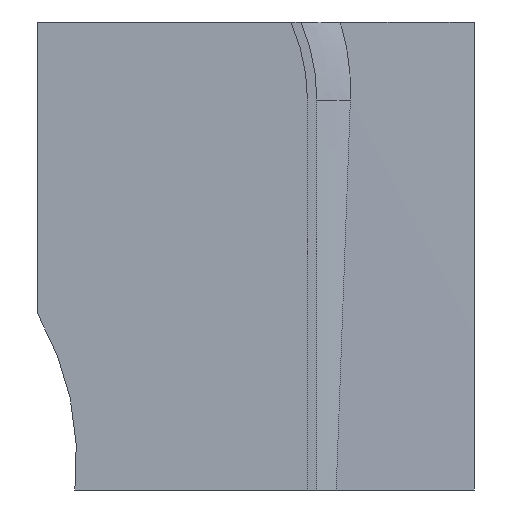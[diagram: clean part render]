
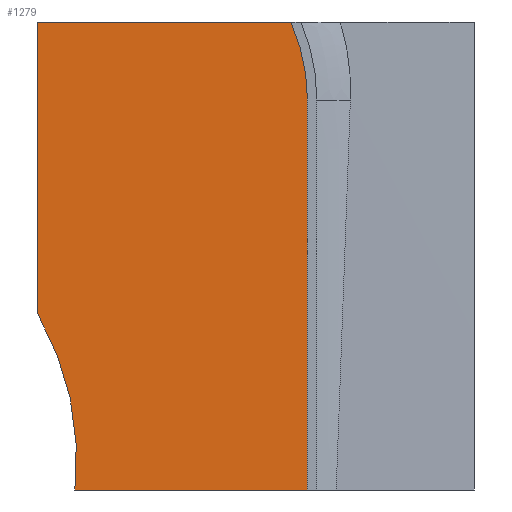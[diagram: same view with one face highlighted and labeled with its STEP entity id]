
A CAD part, front view. The second image highlights one B-rep face of the part: STEP entity #1279.
In plain terms, the highlighted planar face has unit normal (0, -1, 0).
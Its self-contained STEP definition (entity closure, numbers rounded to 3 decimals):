
#168 = PLANE('',#169);
#169 = AXIS2_PLACEMENT_3D('',#170,#171,#172);
#170 = CARTESIAN_POINT('',(16.,-26.,30.));
#171 = DIRECTION('',(0.,0.,1.));
#172 = DIRECTION('',(1.,0.,0.));
#229 = PLANE('',#230);
#230 = AXIS2_PLACEMENT_3D('',#231,#232,#233);
#231 = CARTESIAN_POINT('',(16.,-26.,60.));
#232 = DIRECTION('',(0.,0.,1.));
#233 = DIRECTION('',(1.,0.,0.));
#603 = VERTEX_POINT('',#604);
#604 = CARTESIAN_POINT('',(16.,-23.95,60.));
#620 = PLANE('',#621);
#621 = AXIS2_PLACEMENT_3D('',#622,#623,#624);
#622 = CARTESIAN_POINT('',(16.,-26.,30.));
#623 = DIRECTION('',(1.,0.,0.));
#624 = DIRECTION('',(0.,0.,1.));
#632 = EDGE_CURVE('',#633,#603,#635,.T.);
#633 = VERTEX_POINT('',#634);
#634 = CARTESIAN_POINT('',(32.238,-23.95,60.));
#635 = SURFACE_CURVE('',#636,(#640,#646),.PCURVE_S1.);
#636 = LINE('',#637,#638);
#637 = CARTESIAN_POINT('',(8.,-23.95,60.));
#638 = VECTOR('',#639,1.);
#639 = DIRECTION('',(-1.,0.,0.));
#640 = PCURVE('',#229,#641);
#641 = DEFINITIONAL_REPRESENTATION('',(#642),#645);
#642 = B_SPLINE_CURVE_WITH_KNOTS('',1,(#643,#644),.UNSPECIFIED.,.F.,.F.,
  (2,2),(-25.3,-8.),.PIECEWISE_BEZIER_KNOTS.);
#643 = CARTESIAN_POINT('',(17.3,2.05));
#644 = CARTESIAN_POINT('',(0.,2.05));
#645 = ( GEOMETRIC_REPRESENTATION_CONTEXT(2) 
PARAMETRIC_REPRESENTATION_CONTEXT() REPRESENTATION_CONTEXT('2D SPACE',''
  ) );
#646 = PCURVE('',#647,#652);
#647 = PLANE('',#648);
#648 = AXIS2_PLACEMENT_3D('',#649,#650,#651);
#649 = CARTESIAN_POINT('',(0.,-23.95,32.));
#650 = DIRECTION('',(0.,-1.,0.));
#651 = DIRECTION('',(1.,0.,0.));
#652 = DEFINITIONAL_REPRESENTATION('',(#653),#656);
#653 = B_SPLINE_CURVE_WITH_KNOTS('',1,(#654,#655),.UNSPECIFIED.,.F.,.F.,
  (2,2),(-25.3,-8.),.PIECEWISE_BEZIER_KNOTS.);
#654 = CARTESIAN_POINT('',(33.3,28.));
#655 = CARTESIAN_POINT('',(16.,28.));
#656 = ( GEOMETRIC_REPRESENTATION_CONTEXT(2) 
PARAMETRIC_REPRESENTATION_CONTEXT() REPRESENTATION_CONTEXT('2D SPACE',''
  ) );
#673 = CYLINDRICAL_SURFACE('',#674,12.3);
#674 = AXIS2_PLACEMENT_3D('',#675,#676,#677);
#675 = CARTESIAN_POINT('',(21.,-23.95,55.));
#676 = DIRECTION('',(0.,1.,0.));
#677 = DIRECTION('',(1.,0.,0.));
#880 = VERTEX_POINT('',#881);
#881 = CARTESIAN_POINT('',(18.392,-23.95,30.));
#894 = CYLINDRICAL_SURFACE('',#895,18.5);
#895 = AXIS2_PLACEMENT_3D('',#896,#897,#898);
#896 = CARTESIAN_POINT('',(0.,-17.,32.));
#897 = DIRECTION('',(0.,-1.,0.));
#898 = DIRECTION('',(1.,0.,0.));
#905 = EDGE_CURVE('',#906,#880,#908,.T.);
#906 = VERTEX_POINT('',#907);
#907 = CARTESIAN_POINT('',(33.3,-23.95,30.));
#908 = SURFACE_CURVE('',#909,(#913,#919),.PCURVE_S1.);
#909 = LINE('',#910,#911);
#910 = CARTESIAN_POINT('',(8.,-23.95,30.));
#911 = VECTOR('',#912,1.);
#912 = DIRECTION('',(-1.,0.,0.));
#913 = PCURVE('',#168,#914);
#914 = DEFINITIONAL_REPRESENTATION('',(#915),#918);
#915 = B_SPLINE_CURVE_WITH_KNOTS('',1,(#916,#917),.UNSPECIFIED.,.F.,.F.,
  (2,2),(-25.3,-8.),.PIECEWISE_BEZIER_KNOTS.);
#916 = CARTESIAN_POINT('',(17.3,2.05));
#917 = CARTESIAN_POINT('',(0.,2.05));
#918 = ( GEOMETRIC_REPRESENTATION_CONTEXT(2) 
PARAMETRIC_REPRESENTATION_CONTEXT() REPRESENTATION_CONTEXT('2D SPACE',''
  ) );
#919 = PCURVE('',#647,#920);
#920 = DEFINITIONAL_REPRESENTATION('',(#921),#924);
#921 = B_SPLINE_CURVE_WITH_KNOTS('',1,(#922,#923),.UNSPECIFIED.,.F.,.F.,
  (2,2),(-25.3,-8.),.PIECEWISE_BEZIER_KNOTS.);
#922 = CARTESIAN_POINT('',(33.3,-2.));
#923 = CARTESIAN_POINT('',(16.,-2.));
#924 = ( GEOMETRIC_REPRESENTATION_CONTEXT(2) 
PARAMETRIC_REPRESENTATION_CONTEXT() REPRESENTATION_CONTEXT('2D SPACE',''
  ) );
#941 = PLANE('',#942);
#942 = AXIS2_PLACEMENT_3D('',#943,#944,#945);
#943 = CARTESIAN_POINT('',(33.3,-23.95,9.));
#944 = DIRECTION('',(-1.,0.,0.));
#945 = DIRECTION('',(0.,0.,1.));
#1074 = EDGE_CURVE('',#1075,#603,#1077,.T.);
#1075 = VERTEX_POINT('',#1076);
#1076 = CARTESIAN_POINT('',(16.,-23.95,41.287));
#1077 = SURFACE_CURVE('',#1078,(#1082,#1088),.PCURVE_S1.);
#1078 = LINE('',#1079,#1080);
#1079 = CARTESIAN_POINT('',(16.,-23.95,31.));
#1080 = VECTOR('',#1081,1.);
#1081 = DIRECTION('',(-0.,0.,1.));
#1082 = PCURVE('',#620,#1083);
#1083 = DEFINITIONAL_REPRESENTATION('',(#1084),#1087);
#1084 = B_SPLINE_CURVE_WITH_KNOTS('',1,(#1085,#1086),.UNSPECIFIED.,.F.,
  .F.,(2,2),(-1.,29.),.PIECEWISE_BEZIER_KNOTS.);
#1085 = CARTESIAN_POINT('',(0.,-2.05));
#1086 = CARTESIAN_POINT('',(30.,-2.05));
#1087 = ( GEOMETRIC_REPRESENTATION_CONTEXT(2) 
PARAMETRIC_REPRESENTATION_CONTEXT() REPRESENTATION_CONTEXT('2D SPACE',''
  ) );
#1088 = PCURVE('',#647,#1089);
#1089 = DEFINITIONAL_REPRESENTATION('',(#1090),#1093);
#1090 = B_SPLINE_CURVE_WITH_KNOTS('',1,(#1091,#1092),.UNSPECIFIED.,.F.,
  .F.,(2,2),(-1.,29.),.PIECEWISE_BEZIER_KNOTS.);
#1091 = CARTESIAN_POINT('',(16.,-2.));
#1092 = CARTESIAN_POINT('',(16.,28.));
#1093 = ( GEOMETRIC_REPRESENTATION_CONTEXT(2) 
PARAMETRIC_REPRESENTATION_CONTEXT() REPRESENTATION_CONTEXT('2D SPACE',''
  ) );
#1235 = VERTEX_POINT('',#1236);
#1236 = CARTESIAN_POINT('',(33.3,-23.95,55.));
#1257 = EDGE_CURVE('',#1235,#633,#1258,.T.);
#1258 = SURFACE_CURVE('',#1259,(#1264,#1271),.PCURVE_S1.);
#1259 = CIRCLE('',#1260,12.3);
#1260 = AXIS2_PLACEMENT_3D('',#1261,#1262,#1263);
#1261 = CARTESIAN_POINT('',(21.,-23.95,55.));
#1262 = DIRECTION('',(0.,-1.,0.));
#1263 = DIRECTION('',(1.,0.,0.));
#1264 = PCURVE('',#673,#1265);
#1265 = DEFINITIONAL_REPRESENTATION('',(#1266),#1270);
#1266 = LINE('',#1267,#1268);
#1267 = CARTESIAN_POINT('',(6.283,0.));
#1268 = VECTOR('',#1269,1.);
#1269 = DIRECTION('',(-1.,0.));
#1270 = ( GEOMETRIC_REPRESENTATION_CONTEXT(2) 
PARAMETRIC_REPRESENTATION_CONTEXT() REPRESENTATION_CONTEXT('2D SPACE',''
  ) );
#1271 = PCURVE('',#647,#1272);
#1272 = DEFINITIONAL_REPRESENTATION('',(#1273),#1277);
#1273 = CIRCLE('',#1274,12.3);
#1274 = AXIS2_PLACEMENT_2D('',#1275,#1276);
#1275 = CARTESIAN_POINT('',(21.,23.));
#1276 = DIRECTION('',(1.,0.));
#1277 = ( GEOMETRIC_REPRESENTATION_CONTEXT(2) 
PARAMETRIC_REPRESENTATION_CONTEXT() REPRESENTATION_CONTEXT('2D SPACE',''
  ) );
#1279 = ADVANCED_FACE('',(#1280),#647,.T.);
#1280 = FACE_BOUND('',#1281,.T.);
#1281 = EDGE_LOOP('',(#1282,#1283,#1284,#1285,#1311,#1312));
#1282 = ORIENTED_EDGE('',*,*,#1257,.T.);
#1283 = ORIENTED_EDGE('',*,*,#632,.T.);
#1284 = ORIENTED_EDGE('',*,*,#1074,.F.);
#1285 = ORIENTED_EDGE('',*,*,#1286,.T.);
#1286 = EDGE_CURVE('',#1075,#880,#1287,.T.);
#1287 = SURFACE_CURVE('',#1288,(#1293,#1304),.PCURVE_S1.);
#1288 = CIRCLE('',#1289,18.5);
#1289 = AXIS2_PLACEMENT_3D('',#1290,#1291,#1292);
#1290 = CARTESIAN_POINT('',(0.,-23.95,32.));
#1291 = DIRECTION('',(0.,1.,0.));
#1292 = DIRECTION('',(0.865,0.,0.502)
  );
#1293 = PCURVE('',#647,#1294);
#1294 = DEFINITIONAL_REPRESENTATION('',(#1295),#1303);
#1295 = ( BOUNDED_CURVE() B_SPLINE_CURVE(2,(#1296,#1297,#1298,#1299,
#1300,#1301,#1302),.UNSPECIFIED.,.T.,.F.) B_SPLINE_CURVE_WITH_KNOTS((1,2
    ,2,2,2,1),(-2.094,0.,2.094,4.189,
6.283,8.378),.UNSPECIFIED.) CURVE() 
GEOMETRIC_REPRESENTATION_ITEM() RATIONAL_B_SPLINE_CURVE((1.,0.5,1.,0.5,
1.,0.5,1.)) REPRESENTATION_ITEM('') );
#1296 = CARTESIAN_POINT('',(16.,9.287));
#1297 = CARTESIAN_POINT('',(32.086,-18.426));
#1298 = CARTESIAN_POINT('',(0.043,-18.5));
#1299 = CARTESIAN_POINT('',(-32.,-18.574));
#1300 = CARTESIAN_POINT('',(-16.043,9.213));
#1301 = CARTESIAN_POINT('',(-0.086,37.));
#1302 = CARTESIAN_POINT('',(16.,9.287));
#1303 = ( GEOMETRIC_REPRESENTATION_CONTEXT(2) 
PARAMETRIC_REPRESENTATION_CONTEXT() REPRESENTATION_CONTEXT('2D SPACE',''
  ) );
#1304 = PCURVE('',#894,#1305);
#1305 = DEFINITIONAL_REPRESENTATION('',(#1306),#1310);
#1306 = LINE('',#1307,#1308);
#1307 = CARTESIAN_POINT('',(6.809,6.95));
#1308 = VECTOR('',#1309,1.);
#1309 = DIRECTION('',(-1.,-0.));
#1310 = ( GEOMETRIC_REPRESENTATION_CONTEXT(2) 
PARAMETRIC_REPRESENTATION_CONTEXT() REPRESENTATION_CONTEXT('2D SPACE',''
  ) );
#1311 = ORIENTED_EDGE('',*,*,#905,.F.);
#1312 = ORIENTED_EDGE('',*,*,#1313,.T.);
#1313 = EDGE_CURVE('',#906,#1235,#1314,.T.);
#1314 = SURFACE_CURVE('',#1315,(#1319,#1326),.PCURVE_S1.);
#1315 = LINE('',#1316,#1317);
#1316 = CARTESIAN_POINT('',(33.3,-23.95,32.));
#1317 = VECTOR('',#1318,1.);
#1318 = DIRECTION('',(0.,0.,1.));
#1319 = PCURVE('',#647,#1320);
#1320 = DEFINITIONAL_REPRESENTATION('',(#1321),#1325);
#1321 = LINE('',#1322,#1323);
#1322 = CARTESIAN_POINT('',(33.3,0.));
#1323 = VECTOR('',#1324,1.);
#1324 = DIRECTION('',(0.,1.));
#1325 = ( GEOMETRIC_REPRESENTATION_CONTEXT(2) 
PARAMETRIC_REPRESENTATION_CONTEXT() REPRESENTATION_CONTEXT('2D SPACE',''
  ) );
#1326 = PCURVE('',#941,#1327);
#1327 = DEFINITIONAL_REPRESENTATION('',(#1328),#1332);
#1328 = LINE('',#1329,#1330);
#1329 = CARTESIAN_POINT('',(23.,0.));
#1330 = VECTOR('',#1331,1.);
#1331 = DIRECTION('',(1.,0.));
#1332 = ( GEOMETRIC_REPRESENTATION_CONTEXT(2) 
PARAMETRIC_REPRESENTATION_CONTEXT() REPRESENTATION_CONTEXT('2D SPACE',''
  ) );
